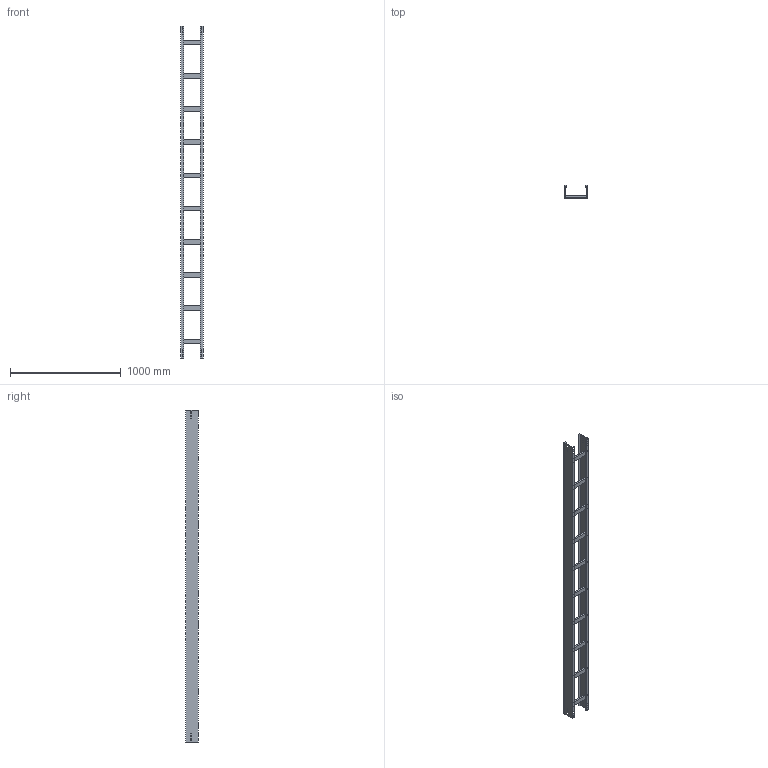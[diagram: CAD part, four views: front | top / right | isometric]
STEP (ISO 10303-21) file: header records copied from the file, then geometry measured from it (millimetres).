
FILE_DESCRIPTION (( 'STEP AP214' ), '1' );
FILE_NAME ('01B3J200.step', '2025-02-21T16:00:09', ( '' ), ( '' ), 'SwSTEP 2.0', 'SolidWorks 2023', '' );
FILE_SCHEMA (( 'AUTOMOTIVE_DESIGN' ));
Length unit declared in the file: millimetre
Products named in the file (3): 01B3J200; LONGH.H112.5; TRAVERSINO_200
Assembly tree (12 placements, depth 2):
  01B3J200
    LONGH.H112.5  x2
    TRAVERSINO_200  x10
Bounding box: 200 x 112.5 x 3000 mm (x, y, z)
Volume: 4384672 mm3; surface area: 2118156 mm2
Topology: 12 solids, 12 shells, 144 faces, 360 edges, 240 vertices
Faces by surface type: plane 144
Entity records: 1696 total; most frequent: CARTESIAN_POINT 283, ORIENTED_EDGE 264, DIRECTION 258, EDGE_CURVE 132, LINE 132, VECTOR 132, VERTEX_POINT 88, EDGE_LOOP 64
